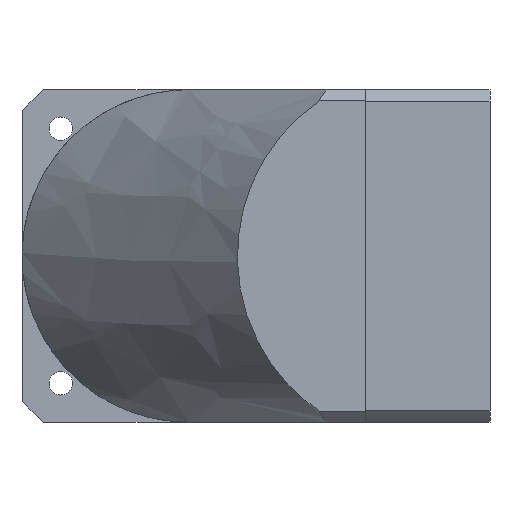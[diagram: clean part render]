
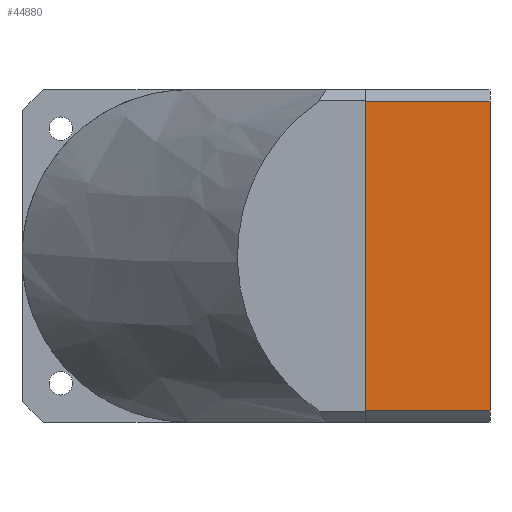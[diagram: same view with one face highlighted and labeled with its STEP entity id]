
A CAD part, front view. The second image highlights one B-rep face of the part: STEP entity #44880.
In plain terms, the highlighted planar face has unit normal (0, -1, 0).
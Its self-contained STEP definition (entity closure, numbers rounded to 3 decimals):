
#503 = ORIENTED_EDGE ( 'NONE', *, *, #39821, .T. ) ;
#2678 = PLANE ( 'NONE',  #35034 ) ;
#2716 = DIRECTION ( 'NONE',  ( -1., 0., 0. ) ) ;
#2799 = CARTESIAN_POINT ( 'NONE',  ( 55.893, -60., 0. ) ) ;
#3018 = CARTESIAN_POINT ( 'NONE',  ( 0., -60., -45. ) ) ;
#5580 = EDGE_CURVE ( 'NONE', #32973, #7943, #40227, .T. ) ;
#7559 = VECTOR ( 'NONE', #13687, 1000. ) ;
#7943 = VERTEX_POINT ( 'NONE', #27310 ) ;
#8679 = LINE ( 'NONE', #3018, #7559 ) ;
#8818 = FACE_OUTER_BOUND ( 'NONE', #12701, .T. ) ;
#12701 = EDGE_LOOP ( 'NONE', ( #503, #28668, #26816, #38501 ) ) ;
#13474 = CARTESIAN_POINT ( 'NONE',  ( -60., -60., -45. ) ) ;
#13687 = DIRECTION ( 'NONE',  ( 1., 0., 0. ) ) ;
#17070 = DIRECTION ( 'NONE',  ( 0., 0., -1. ) ) ;
#20356 = CARTESIAN_POINT ( 'NONE',  ( -60., -60., 0. ) ) ;
#20966 = LINE ( 'NONE', #2799, #39738 ) ;
#21418 = VECTOR ( 'NONE', #2716, 1000. ) ;
#22406 = CARTESIAN_POINT ( 'NONE',  ( 55.893, -60., -45. ) ) ;
#23953 = DIRECTION ( 'NONE',  ( 0., 0., -1. ) ) ;
#26816 = ORIENTED_EDGE ( 'NONE', *, *, #40712, .F. ) ;
#27310 = CARTESIAN_POINT ( 'NONE',  ( -55.893, -60., 0. ) ) ;
#27446 = CARTESIAN_POINT ( 'NONE',  ( -55.893, -60., -45. ) ) ;
#27635 = VECTOR ( 'NONE', #31027, 1000. ) ;
#28448 = CARTESIAN_POINT ( 'NONE',  ( -55.893, -60., -45. ) ) ;
#28454 = VERTEX_POINT ( 'NONE', #28448 ) ;
#28668 = ORIENTED_EDGE ( 'NONE', *, *, #32789, .T. ) ;
#31027 = DIRECTION ( 'NONE',  ( 0., 0., -1. ) ) ;
#32655 = CARTESIAN_POINT ( 'NONE',  ( 55.893, -60., 0. ) ) ;
#32789 = EDGE_CURVE ( 'NONE', #28454, #40603, #8679, .T. ) ;
#32973 = VERTEX_POINT ( 'NONE', #32655 ) ;
#35034 = AXIS2_PLACEMENT_3D ( 'NONE', #13474, #38211, #17070 ) ;
#37049 = LINE ( 'NONE', #27446, #27635 ) ;
#38211 = DIRECTION ( 'NONE',  ( 0., -1., 0. ) ) ;
#38501 = ORIENTED_EDGE ( 'NONE', *, *, #5580, .T. ) ;
#39738 = VECTOR ( 'NONE', #23953, 1000. ) ;
#39821 = EDGE_CURVE ( 'NONE', #7943, #28454, #37049, .T. ) ;
#40227 = LINE ( 'NONE', #20356, #21418 ) ;
#40603 = VERTEX_POINT ( 'NONE', #22406 ) ;
#40712 = EDGE_CURVE ( 'NONE', #32973, #40603, #20966, .T. ) ;
#44880 = ADVANCED_FACE ( 'NONE', ( #8818 ), #2678, .T. ) ;
